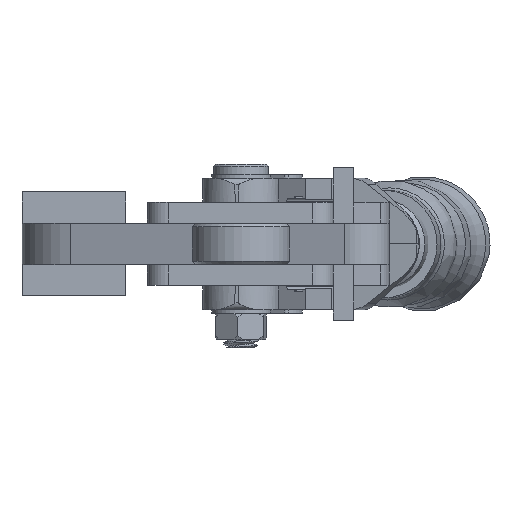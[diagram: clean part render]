
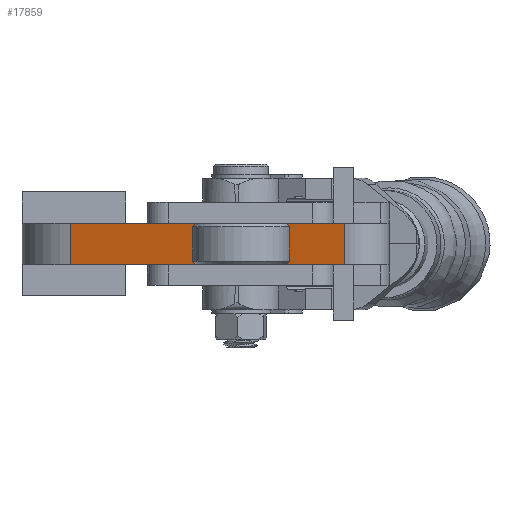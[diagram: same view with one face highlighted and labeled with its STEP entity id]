
A CAD part, front view. The second image highlights one B-rep face of the part: STEP entity #17859.
In plain terms, the highlighted planar face has unit normal (-0.303, -0.953, 0).
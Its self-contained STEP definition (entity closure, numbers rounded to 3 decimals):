
#1232=PLANE('',#19531);
#2655=LINE('',#40583,#4198);
#2663=LINE('',#40604,#4206);
#2664=LINE('',#40607,#4207);
#2665=LINE('',#40608,#4208);
#4198=VECTOR('',#23713,1000.);
#4206=VECTOR('',#23735,1000.);
#4207=VECTOR('',#23738,1000.);
#4208=VECTOR('',#23739,1000.);
#5508=FACE_OUTER_BOUND('',#6591,.T.);
#6591=EDGE_LOOP('',(#16239,#16240,#16241,#16242));
#8919=VERTEX_POINT('',#40580);
#8920=VERTEX_POINT('',#40582);
#8926=VERTEX_POINT('',#40602);
#8927=VERTEX_POINT('',#40606);
#11403=EDGE_CURVE('',#8920,#8919,#2655,.T.);
#11414=EDGE_CURVE('',#8919,#8926,#2663,.T.);
#11415=EDGE_CURVE('',#8926,#8927,#2664,.T.);
#11416=EDGE_CURVE('',#8920,#8927,#2665,.T.);
#16239=ORIENTED_EDGE('',*,*,#11414,.T.);
#16240=ORIENTED_EDGE('',*,*,#11415,.T.);
#16241=ORIENTED_EDGE('',*,*,#11416,.F.);
#16242=ORIENTED_EDGE('',*,*,#11403,.T.);
#17859=ADVANCED_FACE('',(#5508),#1232,.T.);
#19531=AXIS2_PLACEMENT_3D('',#40605,#23736,#23737);
#23713=DIRECTION('',(0.953,-0.303,0.));
#23735=DIRECTION('',(0.,0.,1.));
#23736=DIRECTION('center_axis',(-0.303,-0.953,0.));
#23737=DIRECTION('ref_axis',(0.953,-0.303,0.));
#23738=DIRECTION('',(-0.953,0.303,0.));
#23739=DIRECTION('',(0.,0.,1.));
#40580=CARTESIAN_POINT('',(82.493,-116.106,4.5));
#40582=CARTESIAN_POINT('',(42.98,-103.555,4.5));
#40583=CARTESIAN_POINT('',(69.205,-111.885,4.5));
#40602=CARTESIAN_POINT('',(82.493,-116.106,10.5));
#40604=CARTESIAN_POINT('',(82.493,-116.106,15.));
#40605=CARTESIAN_POINT('Origin',(69.205,-111.885,15.));
#40606=CARTESIAN_POINT('',(42.98,-103.555,10.5));
#40607=CARTESIAN_POINT('',(82.493,-116.106,10.5));
#40608=CARTESIAN_POINT('',(42.98,-103.555,15.));
